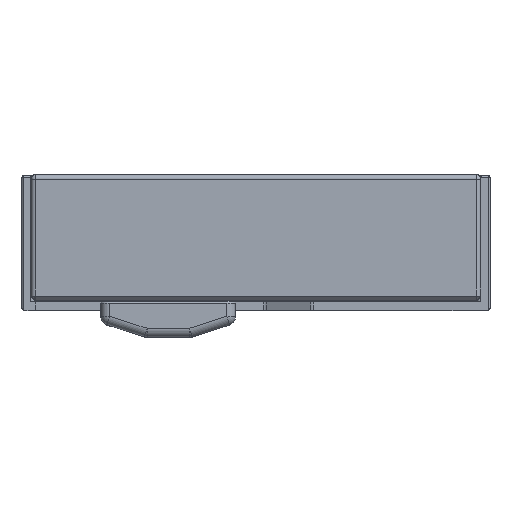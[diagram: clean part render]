
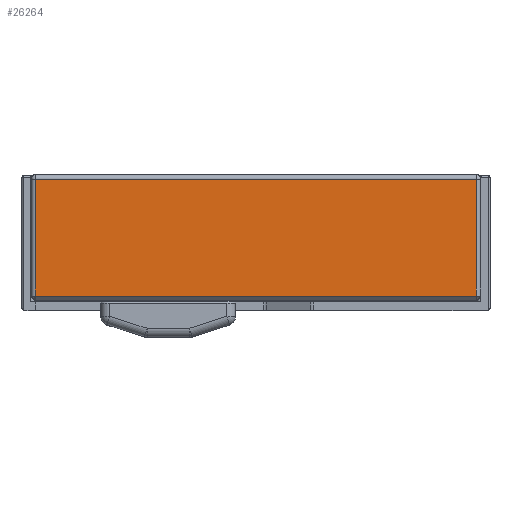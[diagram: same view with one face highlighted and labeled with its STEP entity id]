
A CAD part, top view. The second image highlights one B-rep face of the part: STEP entity #26264.
In plain terms, the highlighted planar face has unit normal (0, 0, 1).
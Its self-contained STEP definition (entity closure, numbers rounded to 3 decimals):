
#10724=DIRECTION('',(1.,0.,0.));
#10725=VECTOR('',#10724,49.);
#10726=CARTESIAN_POINT('',(-24.5,0.5,
29.8));
#10727=LINE('',#10726,#10725);
#10731=DIRECTION('',(0.,-1.,0.));
#10732=VECTOR('',#10731,13.);
#10733=CARTESIAN_POINT('',(-24.5,13.5,29.8));
#10734=LINE('',#10733,#10732);
#10738=DIRECTION('',(-1.,0.,0.));
#10739=VECTOR('',#10738,49.);
#10740=CARTESIAN_POINT('',(24.5,13.5,29.8));
#10741=LINE('',#10740,#10739);
#10745=DIRECTION('',(0.,1.,0.));
#10746=VECTOR('',#10745,13.);
#10747=CARTESIAN_POINT('',(24.5,0.5,
29.8));
#10748=LINE('',#10747,#10746);
#12690=CARTESIAN_POINT('',(24.5,13.5,29.8));
#12691=CARTESIAN_POINT('',(-24.5,13.5,29.8));
#12692=VERTEX_POINT('',#12690);
#12693=VERTEX_POINT('',#12691);
#12698=CARTESIAN_POINT('',(24.5,0.5,29.8));
#12700=VERTEX_POINT('',#12698);
#12702=CARTESIAN_POINT('',(-24.5,0.5,
29.8));
#12703=VERTEX_POINT('',#12702);
#26251=CARTESIAN_POINT('',(25.,0.,29.8));
#26252=DIRECTION('',(0.,0.,1.));
#26253=DIRECTION('',(-1.,0.,0.));
#26254=AXIS2_PLACEMENT_3D('',#26251,#26252,#26253);
#26255=PLANE('',#26254);
#26257=ORIENTED_EDGE('',*,*,#26256,.F.);
#26259=ORIENTED_EDGE('',*,*,#26258,.F.);
#26260=ORIENTED_EDGE('',*,*,#26235,.F.);
#26261=ORIENTED_EDGE('',*,*,#25834,.F.);
#26262=EDGE_LOOP('',(#26257,#26259,#26260,#26261));
#26263=FACE_OUTER_BOUND('',#26262,.F.);
#26264=ADVANCED_FACE('',(#26263),#26255,.T.);
#25834=EDGE_CURVE('',#12700,#12692,#10748,.T.);
#26235=EDGE_CURVE('',#12692,#12693,#10741,.T.);
#26256=EDGE_CURVE('',#12703,#12700,#10727,.T.);
#26258=EDGE_CURVE('',#12693,#12703,#10734,.T.);
